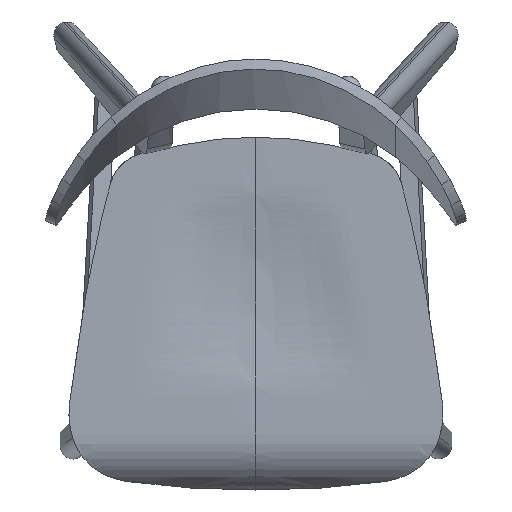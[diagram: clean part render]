
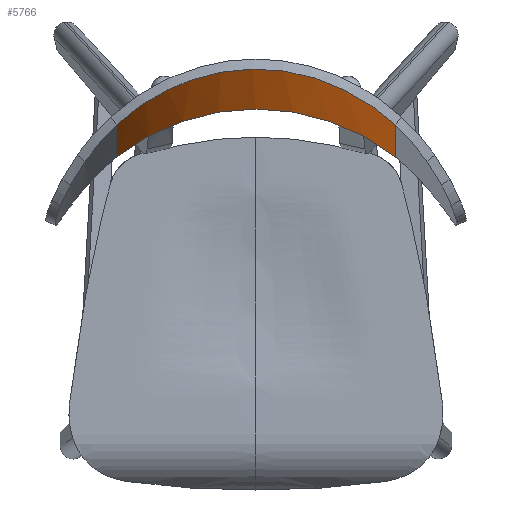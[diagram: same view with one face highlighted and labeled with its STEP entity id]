
A CAD part, top view. The second image highlights one B-rep face of the part: STEP entity #5766.
In plain terms, the highlighted cylindrical face has radius 256.334 mm (diameter 512.667 mm), a partial arc.
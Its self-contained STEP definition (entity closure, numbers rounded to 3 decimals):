
#118=B_SPLINE_CURVE_WITH_KNOTS('',3,(#9312,#9313,#9314,#9315,#9316,#9317,
#9318,#9319,#9320,#9321,#9322,#9323,#9324,#9325,#9326,#9327,#9328,#9329,
#9330,#9331,#9332,#9333),.UNSPECIFIED.,.F.,.F.,(4,2,2,2,2,2,2,2,2,2,4),
(-36.227,-31.634,-27.02,-23.939,
-19.917,-19.29,-18.079,-9.254,
-4.588,-2.276,0.),.UNSPECIFIED.);
#505=CYLINDRICAL_SURFACE('',#6540,256.334);
#644=CIRCLE('',#6541,256.334);
#888=FACE_OUTER_BOUND('',#1256,.T.);
#1256=EDGE_LOOP('',(#4339,#4340,#4341,#4342));
#1718=LINE('',#9335,#2184);
#1719=LINE('',#9338,#2185);
#2184=VECTOR('',#7483,153.082);
#2185=VECTOR('',#7486,153.082);
#2644=VERTEX_POINT('',#9310);
#2645=VERTEX_POINT('',#9311);
#2646=VERTEX_POINT('',#9334);
#2647=VERTEX_POINT('',#9336);
#3268=EDGE_CURVE('',#2644,#2645,#118,.T.);
#3269=EDGE_CURVE('',#2645,#2646,#1718,.T.);
#3270=EDGE_CURVE('',#2647,#2646,#644,.T.);
#3271=EDGE_CURVE('',#2647,#2644,#1719,.T.);
#4339=ORIENTED_EDGE('',*,*,#3268,.T.);
#4340=ORIENTED_EDGE('',*,*,#3269,.T.);
#4341=ORIENTED_EDGE('',*,*,#3270,.F.);
#4342=ORIENTED_EDGE('',*,*,#3271,.T.);
#5766=ADVANCED_FACE('',(#888),#505,.F.);
#6540=AXIS2_PLACEMENT_3D('',#9309,#7481,#7482);
#6541=AXIS2_PLACEMENT_3D('',#9337,#7484,#7485);
#7481=DIRECTION('center_axis',(0.,-0.972,
0.237));
#7482=DIRECTION('ref_axis',(0.335,-0.223,-0.915));
#7483=DIRECTION('',(0.,-0.972,0.237));
#7484=DIRECTION('center_axis',(0.,0.972,-0.237));
#7485=DIRECTION('ref_axis',(0.632,-0.184,-0.753));
#7486=DIRECTION('',(0.,0.972,-0.237));
#9309=CARTESIAN_POINT('Origin',(0.,439.92,-42.708));
#9310=CARTESIAN_POINT('',(161.916,355.218,-226.595));
#9311=CARTESIAN_POINT('',(-161.916,355.218,-226.595));
#9312=CARTESIAN_POINT('Ctrl Pts',(161.916,355.218,-226.595));
#9313=CARTESIAN_POINT('Ctrl Pts',(151.049,359.165,-236.672));
#9314=CARTESIAN_POINT('Ctrl Pts',(139.201,362.551,-245.899));
#9315=CARTESIAN_POINT('Ctrl Pts',(113.765,368.371,-262.177));
#9316=CARTESIAN_POINT('Ctrl Pts',(100.193,370.796,-269.202));
#9317=CARTESIAN_POINT('Ctrl Pts',(76.505,373.961,-278.656));
#9318=CARTESIAN_POINT('Ctrl Pts',(66.788,374.982,-281.819));
#9319=CARTESIAN_POINT('Ctrl Pts',(43.934,376.846,-287.627));
#9320=CARTESIAN_POINT('Ctrl Pts',(30.702,377.535,-289.803));
#9321=CARTESIAN_POINT('Ctrl Pts',(15.272,377.904,-290.97));
#9322=CARTESIAN_POINT('Ctrl Pts',(13.184,377.944,-291.1));
#9323=CARTESIAN_POINT('Ctrl Pts',(7.096,378.038,-291.394));
#9324=CARTESIAN_POINT('Ctrl Pts',(3.081,378.068,-291.484));
#9325=CARTESIAN_POINT('Ctrl Pts',(-30.198,378.037,-291.351));
#9326=CARTESIAN_POINT('Ctrl Pts',(-58.975,376.247,-285.633));
#9327=CARTESIAN_POINT('Ctrl Pts',(-100.198,370.784,-269.2));
#9328=CARTESIAN_POINT('Ctrl Pts',(-113.771,368.421,-262.194));
#9329=CARTESIAN_POINT('Ctrl Pts',(-133.,364.009,-249.873));
#9330=CARTESIAN_POINT('Ctrl Pts',(-139.159,362.415,-245.509));
#9331=CARTESIAN_POINT('Ctrl Pts',(-150.926,358.993,-236.359));
#9332=CARTESIAN_POINT('Ctrl Pts',(-156.541,357.17,-231.58));
#9333=CARTESIAN_POINT('Ctrl Pts',(-161.916,355.218,-226.595));
#9334=CARTESIAN_POINT('',(-161.916,206.496,-190.319));
#9335=CARTESIAN_POINT('',(-161.916,355.218,-226.595));
#9336=CARTESIAN_POINT('',(161.916,206.496,-190.319));
#9337=CARTESIAN_POINT('Origin',(0.,253.587,2.742));
#9338=CARTESIAN_POINT('',(161.916,206.496,-190.319));
